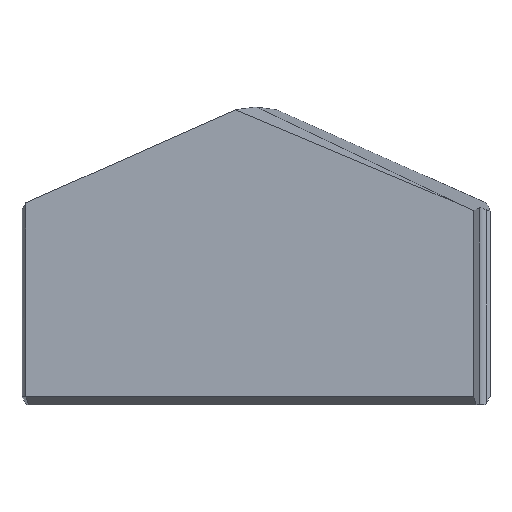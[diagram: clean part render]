
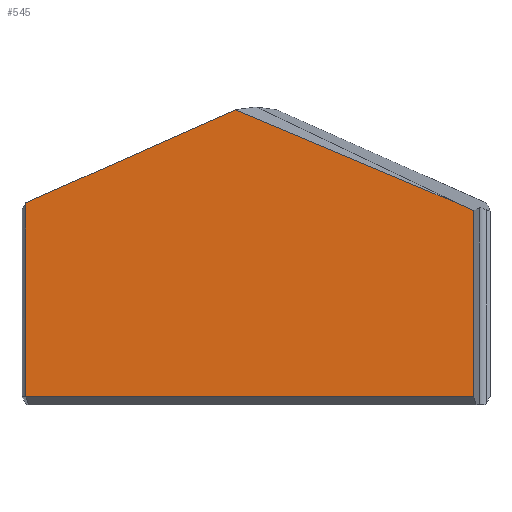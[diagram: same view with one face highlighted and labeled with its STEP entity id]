
A CAD part, top view. The second image highlights one B-rep face of the part: STEP entity #545.
In plain terms, the highlighted planar face has unit normal (0, 0, 1).
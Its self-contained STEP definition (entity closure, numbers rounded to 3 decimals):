
#1 = CARTESIAN_POINT ( 'NONE',  ( -8.582, 0., 3.2 ) ) ;
#9 = CARTESIAN_POINT ( 'NONE',  ( -8.575, 0.289, 3.2 ) ) ;
#15 = DIRECTION ( 'NONE',  ( 0., 1., 0. ) ) ;
#21 = CARTESIAN_POINT ( 'NONE',  ( 8.406, 0.289, 3.2 ) ) ;
#29 = VECTOR ( 'NONE', #639, 1000. ) ;
#38 = VERTEX_POINT ( 'NONE', #475 ) ;
#41 = EDGE_LOOP ( 'NONE', ( #433, #542, #491, #451, #382, #554, #346 ) ) ;
#43 = VERTEX_POINT ( 'NONE', #225 ) ;
#45 = VECTOR ( 'NONE', #15, 1000. ) ;
#47 = LINE ( 'NONE', #611, #411 ) ;
#99 = LINE ( 'NONE', #162, #479 ) ;
#125 = LINE ( 'NONE', #21, #220 ) ;
#138 = CARTESIAN_POINT ( 'NONE',  ( -8.58, 0.296, 3.2 ) ) ;
#144 = CARTESIAN_POINT ( 'NONE',  ( -8.578, 0.292, 3.2 ) ) ;
#148 = VERTEX_POINT ( 'NONE', #597 ) ;
#153 = DIRECTION ( 'NONE',  ( 1., 0., 0. ) ) ;
#162 = CARTESIAN_POINT ( 'NONE',  ( 0., 11.35, 3.2 ) ) ;
#189 = EDGE_CURVE ( 'NONE', #260, #148, #401, .T. ) ;
#199 = CARTESIAN_POINT ( 'NONE',  ( -8.582, 0.3, 3.2 ) ) ;
#207 = LINE ( 'NONE', #301, #378 ) ;
#220 = VECTOR ( 'NONE', #614, 1000. ) ;
#225 = CARTESIAN_POINT ( 'NONE',  ( -0.78, 11.003, 3.2 ) ) ;
#233 = EDGE_CURVE ( 'NONE', #563, #43, #47, .T. ) ;
#241 = B_SPLINE_CURVE_WITH_KNOTS ( 'NONE', 3,
 ( #393, #138, #144, #9 ),
 .UNSPECIFIED., .F., .F.,
 ( 4, 4 ),
 ( 0., 0. ),
 .UNSPECIFIED. ) ;
#250 = CARTESIAN_POINT ( 'NONE',  ( 8.125, 0.289, 3.2 ) ) ;
#260 = VERTEX_POINT ( 'NONE', #199 ) ;
#262 = VERTEX_POINT ( 'NONE', #250 ) ;
#301 = CARTESIAN_POINT ( 'NONE',  ( 4.034, 9.061, 3.2 ) ) ;
#304 = EDGE_CURVE ( 'NONE', #43, #148, #99, .T. ) ;
#307 = DIRECTION ( 'NONE',  ( 0., 0., 1. ) ) ;
#323 = EDGE_CURVE ( 'NONE', #38, #262, #125, .T. ) ;
#337 = EDGE_CURVE ( 'NONE', #617, #563, #207, .T. ) ;
#346 = ORIENTED_EDGE ( 'NONE', *, *, #522, .T. ) ;
#359 = DIRECTION ( 'NONE',  ( -0.914, 0.407, 0. ) ) ;
#377 = AXIS2_PLACEMENT_3D ( 'NONE', #556, #307, #153 ) ;
#378 = VECTOR ( 'NONE', #359, 1000. ) ;
#382 = ORIENTED_EDGE ( 'NONE', *, *, #461, .T. ) ;
#393 = CARTESIAN_POINT ( 'NONE',  ( -8.582, 0.3, 3.2 ) ) ;
#401 = LINE ( 'NONE', #1, #29 ) ;
#411 = VECTOR ( 'NONE', #605, 1000. ) ;
#419 = PLANE ( 'NONE',  #377 ) ;
#431 = FACE_OUTER_BOUND ( 'NONE', #41, .T. ) ;
#433 = ORIENTED_EDGE ( 'NONE', *, *, #337, .T. ) ;
#451 = ORIENTED_EDGE ( 'NONE', *, *, #189, .F. ) ;
#461 = EDGE_CURVE ( 'NONE', #260, #38, #241, .T. ) ;
#470 = DIRECTION ( 'NONE',  ( -0.914, -0.407, 0. ) ) ;
#475 = CARTESIAN_POINT ( 'NONE',  ( -8.575, 0.289, 3.2 ) ) ;
#479 = VECTOR ( 'NONE', #470, 1000. ) ;
#491 = ORIENTED_EDGE ( 'NONE', *, *, #304, .T. ) ;
#522 = EDGE_CURVE ( 'NONE', #262, #617, #577, .T. ) ;
#542 = ORIENTED_EDGE ( 'NONE', *, *, #233, .T. ) ;
#545 = ADVANCED_FACE ( 'NONE', ( #431 ), #419, .T. ) ;
#554 = ORIENTED_EDGE ( 'NONE', *, *, #323, .T. ) ;
#556 = CARTESIAN_POINT ( 'NONE',  ( 0., 0., 3.2 ) ) ;
#563 = VERTEX_POINT ( 'NONE', #610 ) ;
#568 = CARTESIAN_POINT ( 'NONE',  ( 8.125, 7.24, 3.2 ) ) ;
#577 = LINE ( 'NONE', #618, #45 ) ;
#597 = CARTESIAN_POINT ( 'NONE',  ( -8.582, 7.529, 3.2 ) ) ;
#605 = DIRECTION ( 'NONE',  ( -0.922, 0.388, 0. ) ) ;
#610 = CARTESIAN_POINT ( 'NONE',  ( 7.502, 7.518, 3.2 ) ) ;
#611 = CARTESIAN_POINT ( 'NONE',  ( 3.816, 9.069, 3.2 ) ) ;
#614 = DIRECTION ( 'NONE',  ( 1., 0., 0. ) ) ;
#617 = VERTEX_POINT ( 'NONE', #568 ) ;
#618 = CARTESIAN_POINT ( 'NONE',  ( 8.125, 0., 3.2 ) ) ;
#639 = DIRECTION ( 'NONE',  ( 0., 1., 0. ) ) ;
